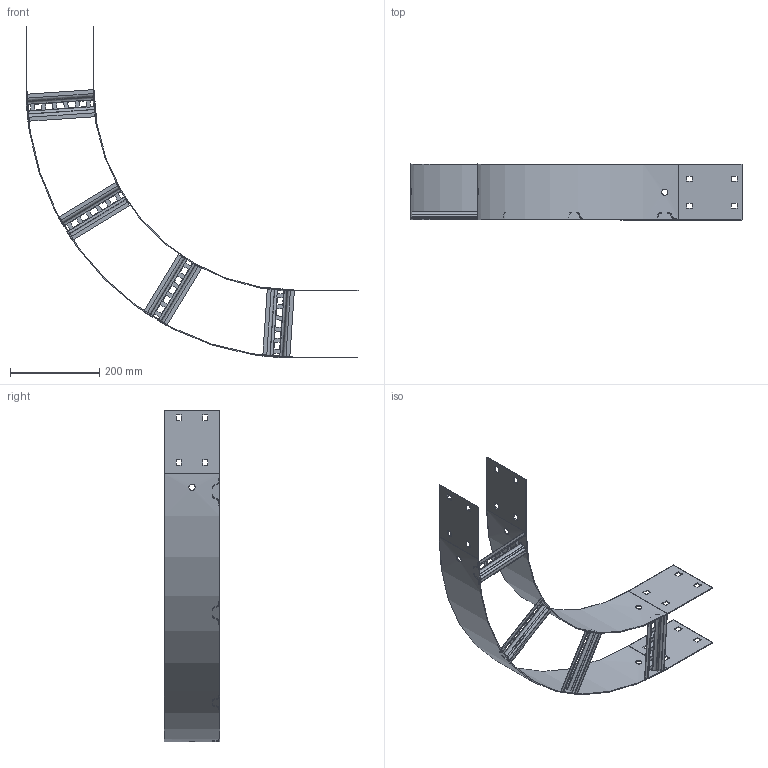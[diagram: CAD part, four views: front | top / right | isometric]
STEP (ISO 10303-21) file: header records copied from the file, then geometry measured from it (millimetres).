
FILE_DESCRIPTION (( 'STEP AP203' ), '1' );
FILE_NAME ('N3B1504H.STEP', '2020-07-07T04:14:58', ( '' ), ( '' ), 'SwSTEP 2.0', 'SolidWorks 2020', '' );
FILE_SCHEMA (( 'CONFIG_CONTROL_DESIGN' ));
Length unit declared in the file: millimetre
Products named in the file (4): Ladder Rung_Ladder Rung -  150mm; N3B1504H; N3 RADIUS PLATE_N1-450 IR; N3 RADIUS PLATE_N1-600
Assembly tree (6 placements, depth 2):
  N3B1504H
    N3 RADIUS PLATE_N1-450 IR
    N3 RADIUS PLATE_N1-600
    Ladder Rung_Ladder Rung -  150mm  x4
Bounding box: 742.5 x 124 x 742.5 mm (x, y, z)
Volume: 607819.7 mm3; surface area: 640509.4 mm2
Topology: 6 solids, 6 shells, 364 faces, 912 edges, 560 vertices
Faces by surface type: plane 320, cylinder 44
Entity records: 6198 total; most frequent: CARTESIAN_POINT 1563, ORIENTED_EDGE 864, DIRECTION 790, EDGE_CURVE 432, LINE 392, VECTOR 392, VERTEX_POINT 272, EDGE_LOOP 216
